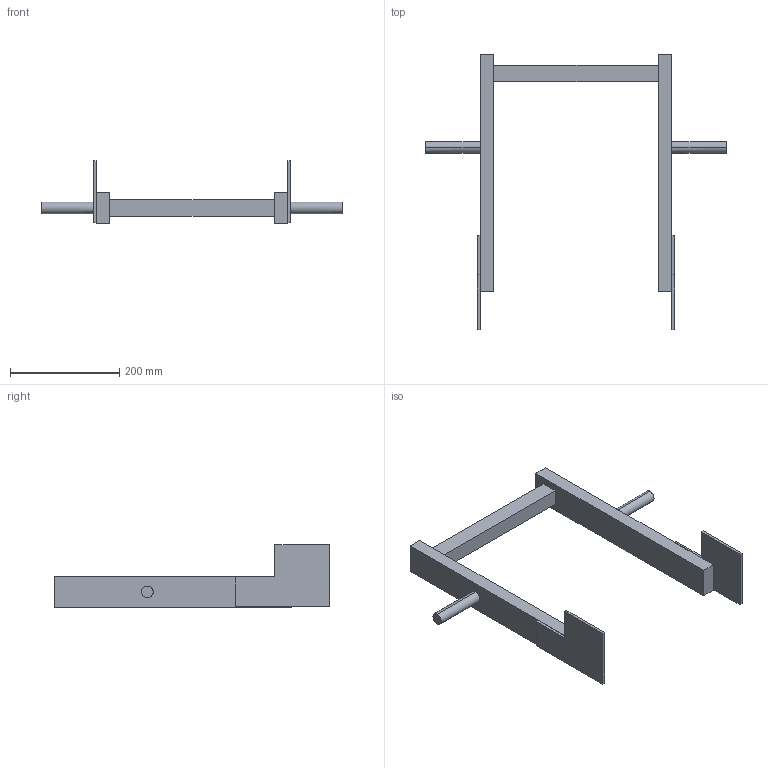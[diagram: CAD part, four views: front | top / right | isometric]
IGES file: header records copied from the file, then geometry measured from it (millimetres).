
Start section:  PTC IGES file: 52330395.igs
Global section: file name: 52330395.igs; native system: Creo Parametric by PTC Inc.; preprocessor: 2022162; author: wep; organization: Unknown; date: 20241218.074225; units: millimetre
Bounding box: 550 x 503 x 115 mm (x, y, z)
Surface area: 239863.2 mm2 (no closed solid volume)
Topology: 0 solids, 0 shells, 38 faces, 184 edges, 184 vertices
Faces by surface type: bspline 34, revolution 4
